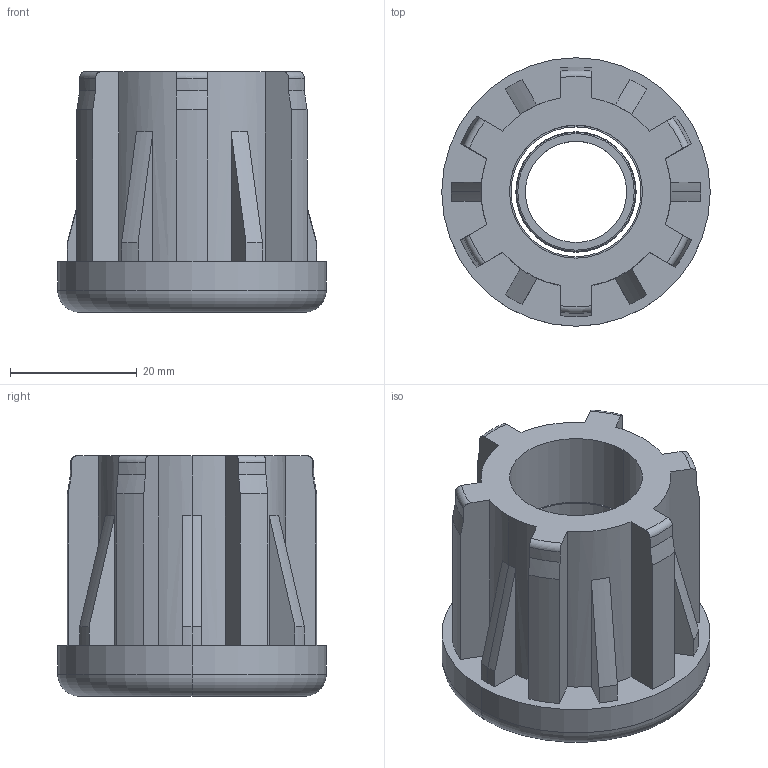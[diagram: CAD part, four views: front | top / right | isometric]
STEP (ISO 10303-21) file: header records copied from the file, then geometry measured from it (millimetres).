
FILE_DESCRIPTION (( 'STEP AP214' ), '1' );
FILE_NAME ('42006442216.STEP', '2020-02-25T17:02:39', ( '' ), ( '' ), 'SwSTEP 2.0', 'SolidWorks 2018', '' );
FILE_SCHEMA (( 'AUTOMOTIVE_DESIGN' ));
Length unit declared in the file: millimetre
Products named in the file (4): BC_M16.stp; 42006442216; 42006442216.stp; Component1.stp
Assembly tree (3 placements, depth 3):
  42006442216
    42006442216.stp
      Component1.stp
      BC_M16.stp
Bounding box: 42.4 x 42.4 x 38 mm (x, y, z)
Volume: 23218.9 mm3; surface area: 12568.9 mm2
Topology: 2 solids, 2 shells, 111 faces, 288 edges, 184 vertices
Faces by surface type: cylinder 44, plane 31, cone 22, torus 14
Entity records: 3668 total; most frequent: CARTESIAN_POINT 788, DIRECTION 602, ORIENTED_EDGE 576, EDGE_CURVE 288, AXIS2_PLACEMENT_3D 238, VERTEX_POINT 184, VECTOR 126, LINE 126
